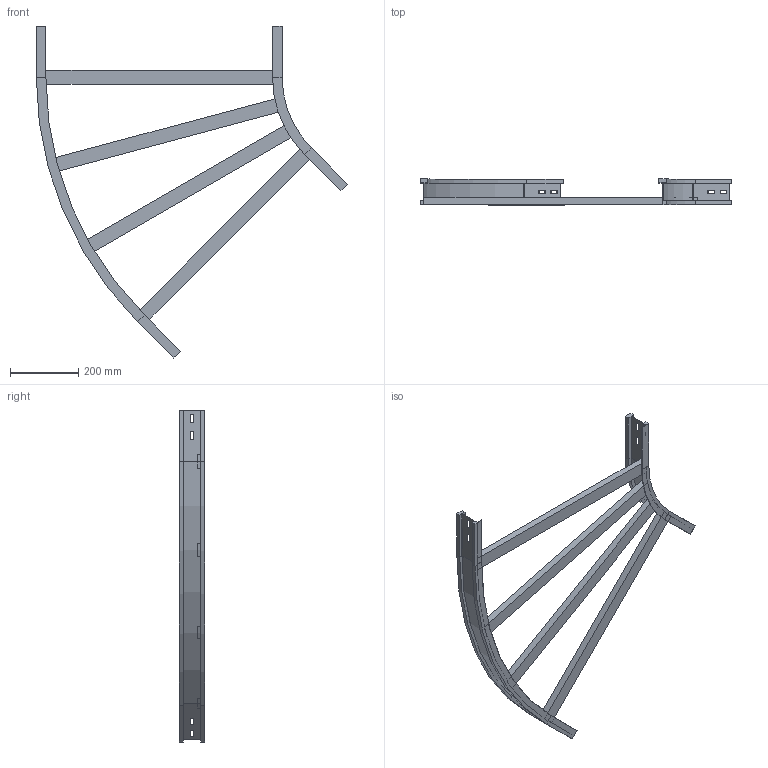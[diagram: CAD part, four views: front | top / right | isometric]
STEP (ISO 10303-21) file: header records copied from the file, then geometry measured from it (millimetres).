
FILE_DESCRIPTION (( 'STEP AP214' ), '1' );
FILE_NAME ('11S3C700.step', '2025-02-21T16:05:44', ( '' ), ( '' ), 'SwSTEP 2.0', 'SolidWorks 2023', '' );
FILE_SCHEMA (( 'AUTOMOTIVE_DESIGN' ));
Length unit declared in the file: millimetre
Products named in the file (4): LONGH.INTERNO 45°_H75_R300; 11S3C700; LONGH.ESTERNO 45°_H75_R300+700; TRAVERSINO_700
Assembly tree (6 placements, depth 2):
  11S3C700
    LONGH.INTERNO 45°_H75_R300
    LONGH.ESTERNO 45°_H75_R300+700
    TRAVERSINO_700  x4
Bounding box: 909.3 x 75 x 969.54 mm (x, y, z)
Volume: 3054336.4 mm3; surface area: 743406.4 mm2
Topology: 6 solids, 6 shells, 132 faces, 312 edges, 192 vertices
Faces by surface type: plane 120, cylinder 12
Entity records: 3397 total; most frequent: CARTESIAN_POINT 567, ORIENTED_EDGE 552, DIRECTION 546, EDGE_CURVE 276, LINE 252, VECTOR 252, VERTEX_POINT 168, AXIS2_PLACEMENT_3D 147
